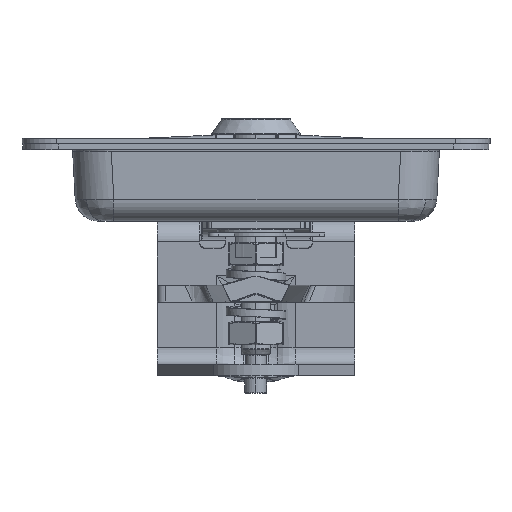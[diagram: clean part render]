
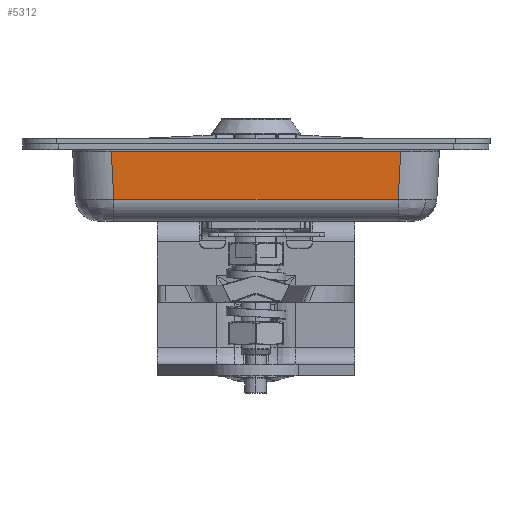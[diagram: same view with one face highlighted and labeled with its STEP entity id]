
A CAD part, front view. The second image highlights one B-rep face of the part: STEP entity #5312.
In plain terms, the highlighted planar face has unit normal (0, -0.999, -0.052) as drawn and (0, 0.999, -0.052) by its records, which use the part's own axes.
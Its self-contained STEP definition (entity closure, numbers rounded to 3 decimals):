
#285 = DIRECTION ( 'NONE',  ( -1., 0., 0. ) ) ;
#2282 = DIRECTION ( 'NONE',  ( 0., 0.999, -0.052 ) ) ;
#2655 = VERTEX_POINT ( 'NONE', #4705 ) ;
#4045 = ORIENTED_EDGE ( 'NONE', *, *, #46755, .T. ) ;
#4705 = CARTESIAN_POINT ( 'NONE',  ( -23.736, 111.25, -14.314 ) ) ;
#5312 = ADVANCED_FACE ( 'NONE', ( #34694 ), #51319, .T. ) ;
#6575 = VECTOR ( 'NONE', #285, 1000. ) ;
#7494 = ORIENTED_EDGE ( 'NONE', *, *, #39446, .T. ) ;
#8637 = VECTOR ( 'NONE', #33536, 1000. ) ;
#11272 = CARTESIAN_POINT ( 'NONE',  ( -97.264, 111.25, -14.314 ) ) ;
#14392 = AXIS2_PLACEMENT_3D ( 'NONE', #16780, #2282, #41513 ) ;
#16780 = CARTESIAN_POINT ( 'NONE',  ( -13., 112., 0. ) ) ;
#18014 = VECTOR ( 'NONE', #52988, 1000. ) ;
#20957 = EDGE_CURVE ( 'NONE', #43533, #25209, #30879, .T. ) ;
#24322 = DIRECTION ( 'NONE',  ( 1., 0., 0. ) ) ;
#25209 = VERTEX_POINT ( 'NONE', #36921 ) ;
#30879 = LINE ( 'NONE', #43582, #18014 ) ;
#31305 = EDGE_CURVE ( 'NONE', #25209, #31805, #52307, .T. ) ;
#31805 = VERTEX_POINT ( 'NONE', #53165 ) ;
#33536 = DIRECTION ( 'NONE',  ( -0.052, -0.052, -0.997 ) ) ;
#34048 = VECTOR ( 'NONE', #24322, 1000. ) ;
#34694 = FACE_OUTER_BOUND ( 'NONE', #60976, .T. ) ;
#36921 = CARTESIAN_POINT ( 'NONE',  ( -97.914, 111.901, -1.895 ) ) ;
#39446 = EDGE_CURVE ( 'NONE', #31805, #2655, #62458, .T. ) ;
#41513 = DIRECTION ( 'NONE',  ( 0., 0.052, 0.999 ) ) ;
#43533 = VERTEX_POINT ( 'NONE', #11272 ) ;
#43582 = CARTESIAN_POINT ( 'NONE',  ( -97.781, 111.768, -4.431 ) ) ;
#45989 = LINE ( 'NONE', #53796, #6575 ) ;
#46619 = ORIENTED_EDGE ( 'NONE', *, *, #31305, .T. ) ;
#46755 = EDGE_CURVE ( 'NONE', #2655, #43533, #45989, .T. ) ;
#51319 = PLANE ( 'NONE',  #14392 ) ;
#52307 = LINE ( 'NONE', #62686, #34048 ) ;
#52988 = DIRECTION ( 'NONE',  ( -0.052, 0.052, 0.997 ) ) ;
#53165 = CARTESIAN_POINT ( 'NONE',  ( -23.086, 111.901, -1.895 ) ) ;
#53796 = CARTESIAN_POINT ( 'NONE',  ( -13., 111.25, -14.314 ) ) ;
#60976 = EDGE_LOOP ( 'NONE', ( #7494, #4045, #61132, #46619 ) ) ;
#61132 = ORIENTED_EDGE ( 'NONE', *, *, #20957, .T. ) ;
#62458 = LINE ( 'NONE', #62580, #8637 ) ;
#62580 = CARTESIAN_POINT ( 'NONE',  ( -22.959, 112.027, 0.521 ) ) ;
#62686 = CARTESIAN_POINT ( 'NONE',  ( -22.986, 111.901, -1.895 ) ) ;
